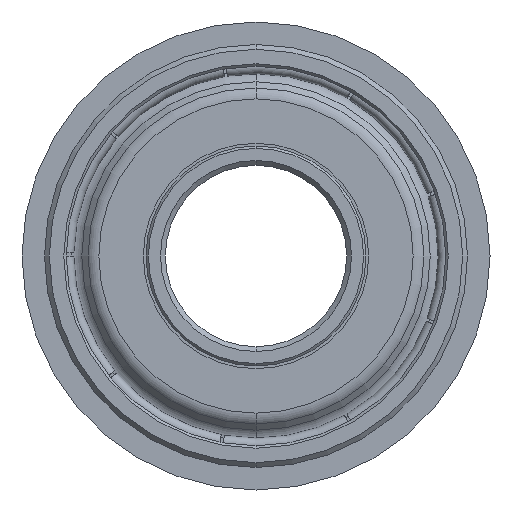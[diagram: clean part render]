
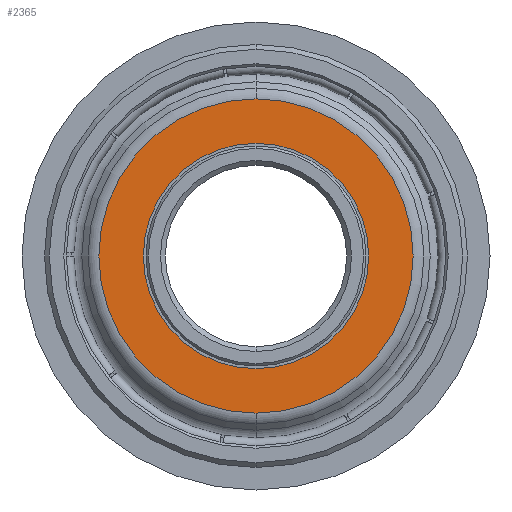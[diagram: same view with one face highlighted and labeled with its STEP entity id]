
A CAD part, front view. The second image highlights one B-rep face of the part: STEP entity #2365.
In plain terms, the highlighted planar face has unit normal (0, -1, 0).
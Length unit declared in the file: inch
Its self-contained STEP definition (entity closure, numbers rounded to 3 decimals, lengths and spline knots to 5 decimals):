
#210 = AXIS2_PLACEMENT_3D ( 'NONE', #2406, #2916, #1870 ) ;
#310 = AXIS2_PLACEMENT_3D ( 'NONE', #577, #1903, #3250 ) ;
#463 = DIRECTION ( 'NONE',  ( 0., 0., 1. ) ) ;
#478 = CIRCLE ( 'NONE', #2371, 0.2331 ) ;
#555 = VERTEX_POINT ( 'NONE', #1749 ) ;
#577 = CARTESIAN_POINT ( 'NONE',  ( 0., 0.01, 0. ) ) ;
#649 = CIRCLE ( 'NONE', #772, 0.2331 ) ;
#685 = CARTESIAN_POINT ( 'NONE',  ( 0., 0.01, 0. ) ) ;
#772 = AXIS2_PLACEMENT_3D ( 'NONE', #685, #2272, #463 ) ;
#785 = EDGE_CURVE ( 'NONE', #555, #1850, #1862, .T. ) ;
#1109 = ORIENTED_EDGE ( 'NONE', *, *, #2277, .T. ) ;
#1424 = CARTESIAN_POINT ( 'NONE',  ( 0., 0.01, -0.32507 ) ) ;
#1432 = DIRECTION ( 'NONE',  ( 0., 1., 0. ) ) ;
#1463 = DIRECTION ( 'NONE',  ( 0., 0., 1. ) ) ;
#1590 = EDGE_CURVE ( 'NONE', #2772, #3026, #478, .T. ) ;
#1657 = PLANE ( 'NONE',  #310 ) ;
#1677 = FACE_OUTER_BOUND ( 'NONE', #1967, .T. ) ;
#1749 = CARTESIAN_POINT ( 'NONE',  ( 0., 0.01, 0.32507 ) ) ;
#1790 = CARTESIAN_POINT ( 'NONE',  ( 0., 0.01, -0.2331 ) ) ;
#1850 = VERTEX_POINT ( 'NONE', #1424 ) ;
#1862 = CIRCLE ( 'NONE', #3304, 0.32507 ) ;
#1870 = DIRECTION ( 'NONE',  ( 0., 0., -1. ) ) ;
#1876 = EDGE_CURVE ( 'NONE', #3026, #2772, #649, .T. ) ;
#1903 = DIRECTION ( 'NONE',  ( 0., -1., 0. ) ) ;
#1967 = EDGE_LOOP ( 'NONE', ( #1109, #2324 ) ) ;
#2003 = ORIENTED_EDGE ( 'NONE', *, *, #1590, .T. ) ;
#2008 = CARTESIAN_POINT ( 'NONE',  ( 0., 0.01, 0. ) ) ;
#2220 = CIRCLE ( 'NONE', #210, 0.32507 ) ;
#2229 = EDGE_LOOP ( 'NONE', ( #2290, #2003 ) ) ;
#2272 = DIRECTION ( 'NONE',  ( 0., 1., 0. ) ) ;
#2277 = EDGE_CURVE ( 'NONE', #1850, #555, #2220, .T. ) ;
#2290 = ORIENTED_EDGE ( 'NONE', *, *, #1876, .T. ) ;
#2324 = ORIENTED_EDGE ( 'NONE', *, *, #785, .T. ) ;
#2349 = CARTESIAN_POINT ( 'NONE',  ( 0., 0.01, 0. ) ) ;
#2365 = ADVANCED_FACE ( 'NONE', ( #1677, #3428 ), #1657, .T. ) ;
#2371 = AXIS2_PLACEMENT_3D ( 'NONE', #2349, #1432, #1463 ) ;
#2406 = CARTESIAN_POINT ( 'NONE',  ( 0., 0.01, 0. ) ) ;
#2657 = CARTESIAN_POINT ( 'NONE',  ( 0., 0.01, 0.2331 ) ) ;
#2772 = VERTEX_POINT ( 'NONE', #2657 ) ;
#2916 = DIRECTION ( 'NONE',  ( 0., -1., 0. ) ) ;
#3026 = VERTEX_POINT ( 'NONE', #1790 ) ;
#3069 = DIRECTION ( 'NONE',  ( 0., -1., 0. ) ) ;
#3250 = DIRECTION ( 'NONE',  ( 0., 0., -1. ) ) ;
#3304 = AXIS2_PLACEMENT_3D ( 'NONE', #2008, #3069, #3356 ) ;
#3356 = DIRECTION ( 'NONE',  ( 0., 0., -1. ) ) ;
#3428 = FACE_BOUND ( 'NONE', #2229, .T. ) ;
